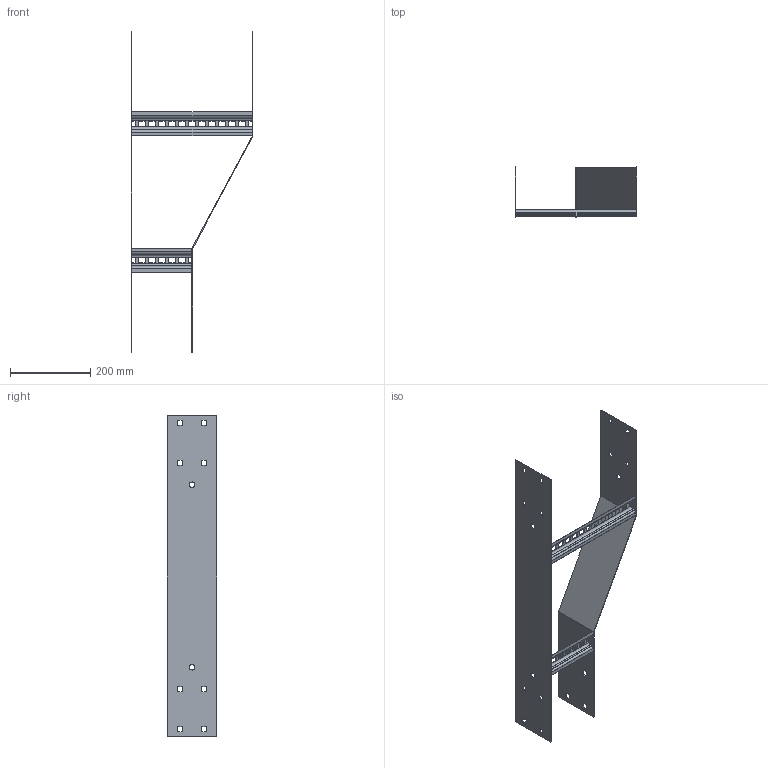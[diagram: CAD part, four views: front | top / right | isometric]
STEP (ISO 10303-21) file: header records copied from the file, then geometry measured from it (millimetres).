
FILE_DESCRIPTION (( 'STEP AP203' ), '1' );
FILE_NAME ('N3 LHR300150.STEP', '2024-08-27T06:05:52', ( '' ), ( '' ), 'SwSTEP 2.0', 'SolidWorks 2023', '' );
FILE_SCHEMA (( 'CONFIG_CONTROL_DESIGN' ));
Length unit declared in the file: millimetre
Products named in the file (5): Ladder Rung_Ladder Rung -  300mm; N3 Back Plate_800; N3 Reducer side plate_LHR150x300; Ladder Rung_Ladder Rung -  150mm; N3 LHR300150
Assembly tree (4 placements, depth 2):
  N3 LHR300150
    N3 Reducer side plate_LHR150x300
    Ladder Rung_Ladder Rung -  150mm
    Ladder Rung_Ladder Rung -  300mm
    N3 Back Plate_800
Bounding box: 304 x 124 x 800 mm (x, y, z)
Volume: 448326.1 mm3; surface area: 473265.9 mm2
Topology: 4 solids, 4 shells, 256 faces, 664 edges, 416 vertices
Faces by surface type: plane 228, cylinder 28
Entity records: 8271 total; most frequent: CARTESIAN_POINT 1343, ORIENTED_EDGE 1328, DIRECTION 1246, EDGE_CURVE 664, VECTOR 608, LINE 608, VERTEX_POINT 416, EDGE_LOOP 328
